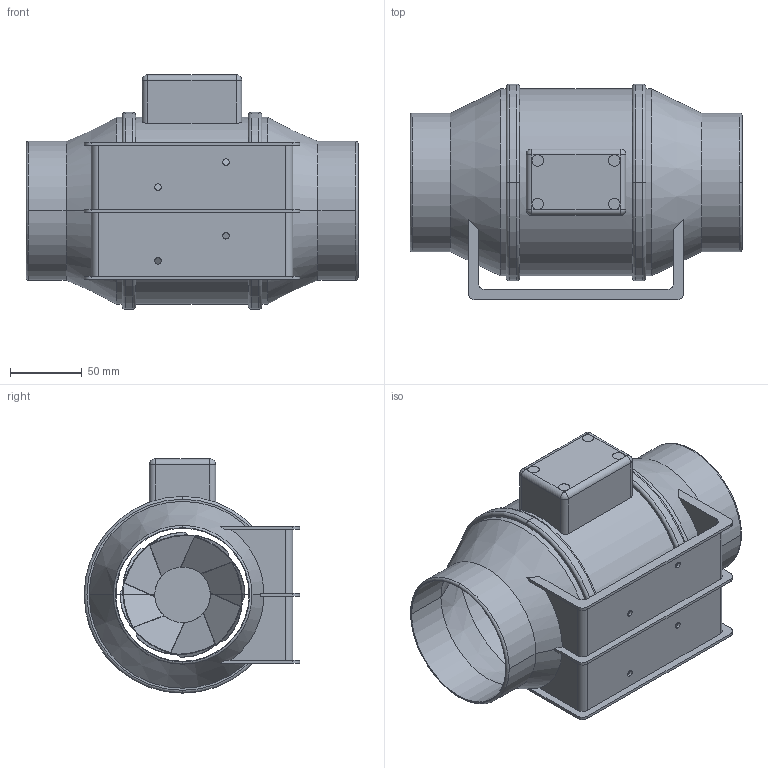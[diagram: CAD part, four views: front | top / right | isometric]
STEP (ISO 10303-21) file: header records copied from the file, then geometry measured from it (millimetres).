
FILE_DESCRIPTION(('STEP AP214'),'1');
FILE_NAME('fan_5211685200.stp','2017-03-31T12:39:03',('TraceParts'),('TraceParts S.A.'),'Spatial InterOp 3D',' ',' ');
FILE_SCHEMA(('automotive_design'));
Length unit declared in the file: millimetre
Products named in the file (1): fan_5211685200
Bounding box: 232 x 150.75 x 163.75 mm (x, y, z)
Volume: 400747.1 mm3; surface area: 257861.1 mm2
Topology: 1 solids, 1 shells, 187 faces, 511 edges, 325 vertices
Faces by surface type: cylinder 82, plane 77, torus 16, cone 8, sphere 4
Entity records: 8198 total; most frequent: CARTESIAN_POINT 1842, DIRECTION 1078, ORIENTED_EDGE 1014, EDGE_CURVE 507, AXIS2_PLACEMENT_3D 439, VERTEX_POINT 325, CIRCLE 219, EDGE_LOOP 204
